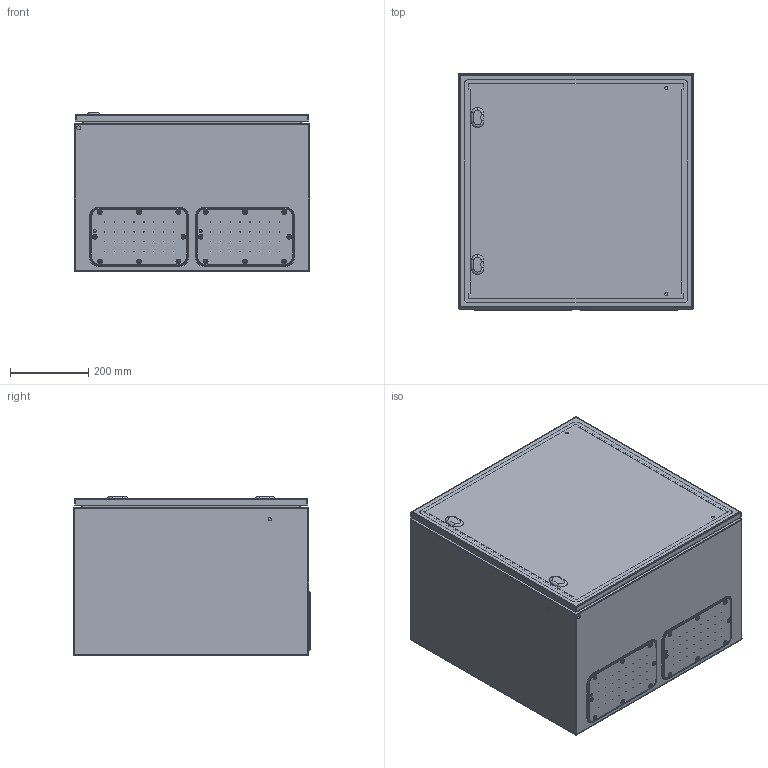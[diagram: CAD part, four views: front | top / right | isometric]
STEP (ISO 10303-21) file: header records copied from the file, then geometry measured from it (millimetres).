
FILE_DESCRIPTION (( 'STEP AP203' ), '1' );
FILE_NAME ('0600x0600x0400 dx.step', '2021-09-07T06:41:41', ( '' ), ( '' ), 'SwSTEP 2.0', 'SolidWorks 2021', '' );
FILE_SCHEMA (( 'CONFIG_CONTROL_DESIGN' ));
Length unit declared in the file: millimetre
Products named in the file (7): AR_ECOR_chiusura_std_STD; AR_ECOR_porta_singola_0600x0600; AR_ECOR_Piastra_16; AR_ECOR_flangia IC_03; AR_ECOR_involucro_0600x0600x0400; 0600x0600x0400 dx; AR_ECOR_montaggio_porta_singola_0600x0600
Assembly tree (8 placements, depth 3):
  0600x0600x0400 dx
    AR_ECOR_involucro_0600x0600x0400
    AR_ECOR_montaggio_porta_singola_0600x0600
      AR_ECOR_porta_singola_0600x0600
      AR_ECOR_chiusura_std_STD  x2
    AR_ECOR_flangia IC_03  x2
    AR_ECOR_Piastra_16
Bounding box: 600 x 604 x 405 mm (x, y, z)
Volume: 3470399.5 mm3; surface area: 4229920.6 mm2
Topology: 7 solids, 7 shells, 1013 faces, 2495 edges, 1574 vertices
Faces by surface type: cylinder 475, plane 284, cone 108, torus 78, bspline 52, sphere 16
Entity records: 23893 total; most frequent: CARTESIAN_POINT 4926, DIRECTION 4039, ORIENTED_EDGE 3632, EDGE_CURVE 1816, AXIS2_PLACEMENT_3D 1604, VERTEX_POINT 1156, EDGE_LOOP 968, CIRCLE 889
